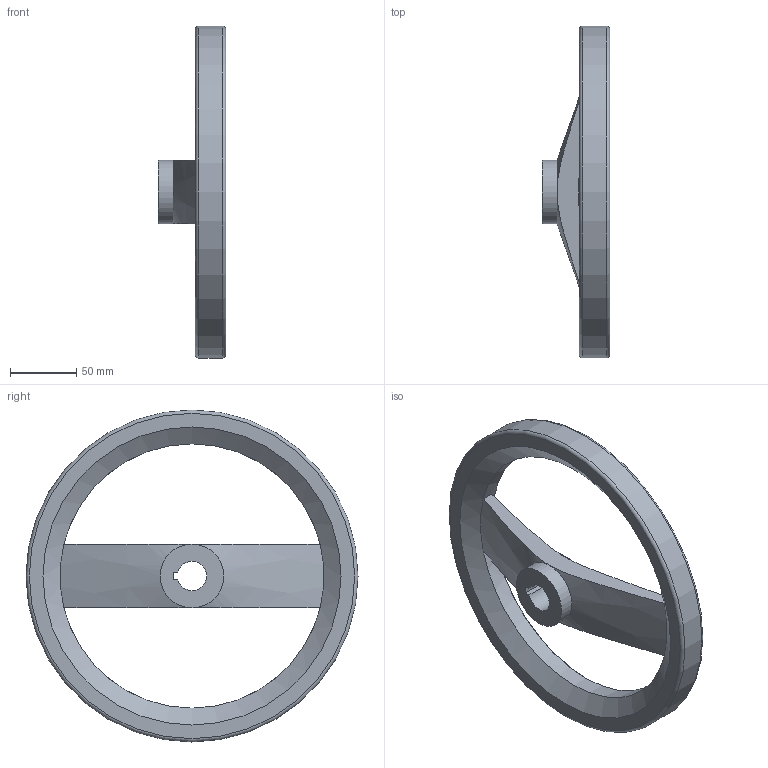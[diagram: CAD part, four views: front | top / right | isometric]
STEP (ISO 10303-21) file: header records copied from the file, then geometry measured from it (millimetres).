
FILE_DESCRIPTION( ( 'STEP AP203' ), '1' );
FILE_NAME( 'C:/Temp/Ganter_Step_05_03_2020/data/1_3/gn_324/gn_324_k/gn_324_k_a/Handwheel, matt black GN 324-250-K22-A.stp', '2020-03-05T10:33:01', ( 'License CC BY-ND 4.0' ), ( 'CADENAS' ), ' ', 'PARTsolutions', ' ' );
FILE_SCHEMA( ( 'CONFIG_CONTROL_DESIGN' ) );
Length unit declared in the file: millimetre
Products named in the file (1): _Handwheel, matt black GN 324-250-K22-A
Bounding box: 51 x 250 x 250 mm (x, y, z)
Volume: 507745.7 mm3; surface area: 89462.3 mm2
Topology: 1 solids, 1 shells, 22 faces, 52 edges, 30 vertices
Faces by surface type: plane 9, cone 6, cylinder 5, torus 2
Full cylindrical faces by diameter (mm): 48 x2, 199 x1, 250 x1
Entity records: 772 total; most frequent: CARTESIAN_POINT 251, DIRECTION 102, ORIENTED_EDGE 86, AXIS2_PLACEMENT_3D 44, EDGE_CURVE 43, EDGE_LOOP 34, VERTEX_POINT 29, FACE_OUTER_BOUND 28
